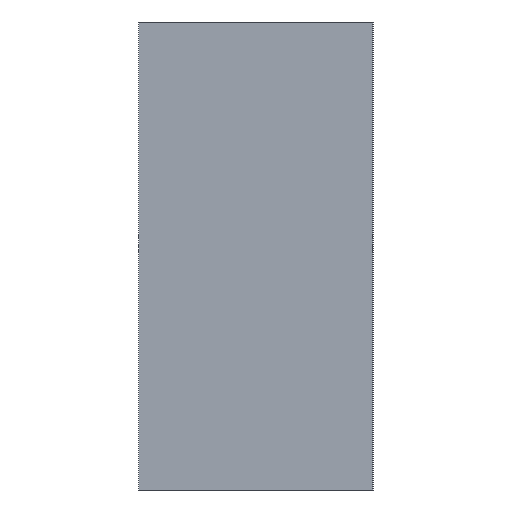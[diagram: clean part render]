
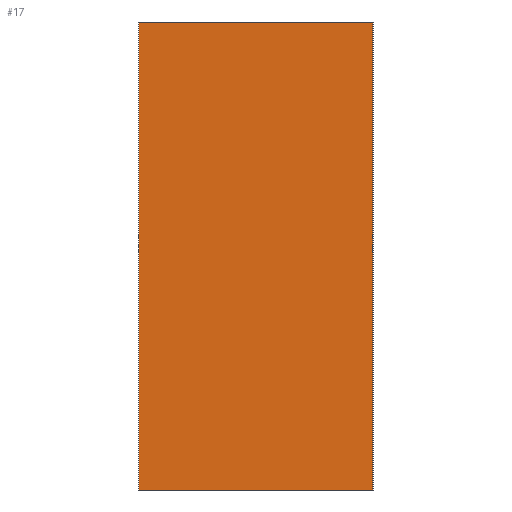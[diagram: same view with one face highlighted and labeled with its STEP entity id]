
A CAD part, left-side view. The second image highlights one B-rep face of the part: STEP entity #17.
In plain terms, the highlighted planar face has unit normal (-1, 0, 0).
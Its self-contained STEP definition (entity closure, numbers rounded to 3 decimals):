
#17 = ADVANCED_FACE('',(#18),#32,.F.);
#18 = FACE_BOUND('',#19,.F.);
#19 = EDGE_LOOP('',(#20,#55,#83,#111));
#20 = ORIENTED_EDGE('',*,*,#21,.F.);
#21 = EDGE_CURVE('',#22,#24,#26,.T.);
#22 = VERTEX_POINT('',#23);
#23 = CARTESIAN_POINT('',(0.,0.,0.));
#24 = VERTEX_POINT('',#25);
#25 = CARTESIAN_POINT('',(0.,0.,101.6));
#26 = SURFACE_CURVE('',#27,(#31,#43),.PCURVE_S1.);
#27 = LINE('',#28,#29);
#28 = CARTESIAN_POINT('',(0.,0.,0.));
#29 = VECTOR('',#30,1.);
#30 = DIRECTION('',(0.,0.,1.));
#31 = PCURVE('',#32,#37);
#32 = PLANE('',#33);
#33 = AXIS2_PLACEMENT_3D('',#34,#35,#36);
#34 = CARTESIAN_POINT('',(0.,0.,0.));
#35 = DIRECTION('',(1.,0.,0.));
#36 = DIRECTION('',(0.,0.,1.));
#37 = DEFINITIONAL_REPRESENTATION('',(#38),#42);
#38 = LINE('',#39,#40);
#39 = CARTESIAN_POINT('',(0.,0.));
#40 = VECTOR('',#41,1.);
#41 = DIRECTION('',(1.,0.));
#42 = ( GEOMETRIC_REPRESENTATION_CONTEXT(2) 
PARAMETRIC_REPRESENTATION_CONTEXT() REPRESENTATION_CONTEXT('2D SPACE',''
  ) );
#43 = PCURVE('',#44,#49);
#44 = PLANE('',#45);
#45 = AXIS2_PLACEMENT_3D('',#46,#47,#48);
#46 = CARTESIAN_POINT('',(0.,0.,0.));
#47 = DIRECTION('',(0.,1.,0.));
#48 = DIRECTION('',(0.,0.,1.));
#49 = DEFINITIONAL_REPRESENTATION('',(#50),#54);
#50 = LINE('',#51,#52);
#51 = CARTESIAN_POINT('',(0.,0.));
#52 = VECTOR('',#53,1.);
#53 = DIRECTION('',(1.,0.));
#54 = ( GEOMETRIC_REPRESENTATION_CONTEXT(2) 
PARAMETRIC_REPRESENTATION_CONTEXT() REPRESENTATION_CONTEXT('2D SPACE',''
  ) );
#55 = ORIENTED_EDGE('',*,*,#56,.T.);
#56 = EDGE_CURVE('',#22,#57,#59,.T.);
#57 = VERTEX_POINT('',#58);
#58 = CARTESIAN_POINT('',(0.,50.8,0.));
#59 = SURFACE_CURVE('',#60,(#64,#71),.PCURVE_S1.);
#60 = LINE('',#61,#62);
#61 = CARTESIAN_POINT('',(0.,0.,0.));
#62 = VECTOR('',#63,1.);
#63 = DIRECTION('',(0.,1.,0.));
#64 = PCURVE('',#32,#65);
#65 = DEFINITIONAL_REPRESENTATION('',(#66),#70);
#66 = LINE('',#67,#68);
#67 = CARTESIAN_POINT('',(0.,0.));
#68 = VECTOR('',#69,1.);
#69 = DIRECTION('',(0.,-1.));
#70 = ( GEOMETRIC_REPRESENTATION_CONTEXT(2) 
PARAMETRIC_REPRESENTATION_CONTEXT() REPRESENTATION_CONTEXT('2D SPACE',''
  ) );
#71 = PCURVE('',#72,#77);
#72 = PLANE('',#73);
#73 = AXIS2_PLACEMENT_3D('',#74,#75,#76);
#74 = CARTESIAN_POINT('',(0.,0.,0.));
#75 = DIRECTION('',(0.,0.,1.));
#76 = DIRECTION('',(1.,0.,0.));
#77 = DEFINITIONAL_REPRESENTATION('',(#78),#82);
#78 = LINE('',#79,#80);
#79 = CARTESIAN_POINT('',(0.,0.));
#80 = VECTOR('',#81,1.);
#81 = DIRECTION('',(0.,1.));
#82 = ( GEOMETRIC_REPRESENTATION_CONTEXT(2) 
PARAMETRIC_REPRESENTATION_CONTEXT() REPRESENTATION_CONTEXT('2D SPACE',''
  ) );
#83 = ORIENTED_EDGE('',*,*,#84,.T.);
#84 = EDGE_CURVE('',#57,#85,#87,.T.);
#85 = VERTEX_POINT('',#86);
#86 = CARTESIAN_POINT('',(0.,50.8,101.6));
#87 = SURFACE_CURVE('',#88,(#92,#99),.PCURVE_S1.);
#88 = LINE('',#89,#90);
#89 = CARTESIAN_POINT('',(0.,50.8,0.));
#90 = VECTOR('',#91,1.);
#91 = DIRECTION('',(0.,0.,1.));
#92 = PCURVE('',#32,#93);
#93 = DEFINITIONAL_REPRESENTATION('',(#94),#98);
#94 = LINE('',#95,#96);
#95 = CARTESIAN_POINT('',(0.,-50.8));
#96 = VECTOR('',#97,1.);
#97 = DIRECTION('',(1.,0.));
#98 = ( GEOMETRIC_REPRESENTATION_CONTEXT(2) 
PARAMETRIC_REPRESENTATION_CONTEXT() REPRESENTATION_CONTEXT('2D SPACE',''
  ) );
#99 = PCURVE('',#100,#105);
#100 = PLANE('',#101);
#101 = AXIS2_PLACEMENT_3D('',#102,#103,#104);
#102 = CARTESIAN_POINT('',(0.,50.8,0.));
#103 = DIRECTION('',(0.,1.,0.));
#104 = DIRECTION('',(0.,0.,1.));
#105 = DEFINITIONAL_REPRESENTATION('',(#106),#110);
#106 = LINE('',#107,#108);
#107 = CARTESIAN_POINT('',(0.,0.));
#108 = VECTOR('',#109,1.);
#109 = DIRECTION('',(1.,0.));
#110 = ( GEOMETRIC_REPRESENTATION_CONTEXT(2) 
PARAMETRIC_REPRESENTATION_CONTEXT() REPRESENTATION_CONTEXT('2D SPACE',''
  ) );
#111 = ORIENTED_EDGE('',*,*,#112,.F.);
#112 = EDGE_CURVE('',#24,#85,#113,.T.);
#113 = SURFACE_CURVE('',#114,(#118,#125),.PCURVE_S1.);
#114 = LINE('',#115,#116);
#115 = CARTESIAN_POINT('',(0.,0.,101.6));
#116 = VECTOR('',#117,1.);
#117 = DIRECTION('',(0.,1.,0.));
#118 = PCURVE('',#32,#119);
#119 = DEFINITIONAL_REPRESENTATION('',(#120),#124);
#120 = LINE('',#121,#122);
#121 = CARTESIAN_POINT('',(101.6,0.));
#122 = VECTOR('',#123,1.);
#123 = DIRECTION('',(0.,-1.));
#124 = ( GEOMETRIC_REPRESENTATION_CONTEXT(2) 
PARAMETRIC_REPRESENTATION_CONTEXT() REPRESENTATION_CONTEXT('2D SPACE',''
  ) );
#125 = PCURVE('',#126,#131);
#126 = PLANE('',#127);
#127 = AXIS2_PLACEMENT_3D('',#128,#129,#130);
#128 = CARTESIAN_POINT('',(0.,0.,101.6));
#129 = DIRECTION('',(0.,0.,1.));
#130 = DIRECTION('',(1.,0.,0.));
#131 = DEFINITIONAL_REPRESENTATION('',(#132),#136);
#132 = LINE('',#133,#134);
#133 = CARTESIAN_POINT('',(0.,0.));
#134 = VECTOR('',#135,1.);
#135 = DIRECTION('',(0.,1.));
#136 = ( GEOMETRIC_REPRESENTATION_CONTEXT(2) 
PARAMETRIC_REPRESENTATION_CONTEXT() REPRESENTATION_CONTEXT('2D SPACE',''
  ) );
